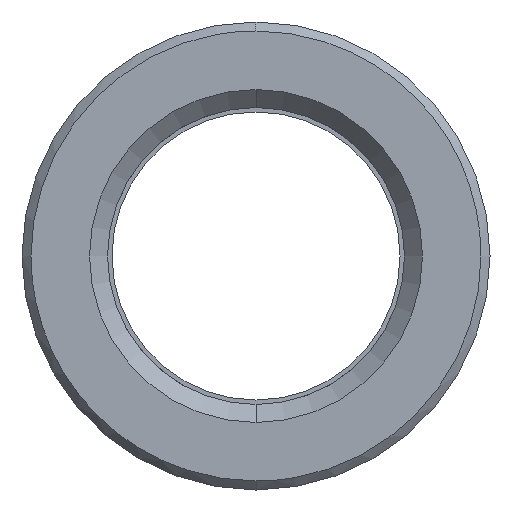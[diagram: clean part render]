
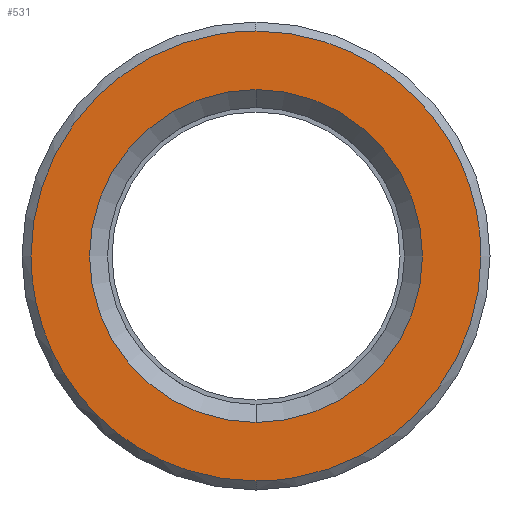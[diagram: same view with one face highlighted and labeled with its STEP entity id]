
A CAD part, left-side view. The second image highlights one B-rep face of the part: STEP entity #531.
In plain terms, the highlighted planar face has unit normal (-1, 0, 0).
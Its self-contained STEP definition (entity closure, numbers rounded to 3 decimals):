
#311=CARTESIAN_POINT('Axis2P3D Location',(0.,0.,0.)) ;
#315=CARTESIAN_POINT('Vertex',(0.,9.25,0.)) ;
#317=CARTESIAN_POINT('Vertex',(0.,0.,9.25)) ;
#320=CARTESIAN_POINT('Axis2P3D Location',(0.,0.,0.)) ;
#324=CARTESIAN_POINT('Vertex',(0.,0.,-9.25)) ;
#351=CARTESIAN_POINT('Axis2P3D Location',(0.,0.,0.)) ;
#355=CARTESIAN_POINT('Vertex',(0.,-9.25,0.)) ;
#358=CARTESIAN_POINT('Axis2P3D Location',(0.,0.,0.)) ;
#438=CARTESIAN_POINT('Axis2P3D Location',(0.,12.5,0.)) ;
#444=CARTESIAN_POINT('Control Point',(0.,0.,-12.5)) ;
#445=CARTESIAN_POINT('Control Point',(0.,0.923,-12.5)) ;
#446=CARTESIAN_POINT('Control Point',(0.,1.846,-12.415)) ;
#447=CARTESIAN_POINT('Control Point',(0.,2.758,-12.245)) ;
#448=CARTESIAN_POINT('Control Point',(0.,4.82,-11.658)) ;
#449=CARTESIAN_POINT('Control Point',(0.,6.718,-10.646)) ;
#450=CARTESIAN_POINT('Control Point',(0.,7.721,-9.943)) ;
#451=CARTESIAN_POINT('Control Point',(0.,9.535,-8.308)) ;
#452=CARTESIAN_POINT('Control Point',(0.,10.907,-6.287)) ;
#453=CARTESIAN_POINT('Control Point',(0.,11.466,-5.197)) ;
#454=CARTESIAN_POINT('Control Point',(0.,12.089,-3.503)) ;
#455=CARTESIAN_POINT('Control Point',(0.,12.399,-1.736)) ;
#456=CARTESIAN_POINT('Control Point',(0.,12.466,-1.159)) ;
#457=CARTESIAN_POINT('Control Point',(0.,12.5,-0.579)) ;
#458=CARTESIAN_POINT('Control Point',(0.,12.5,0.)) ;
#459=CARTESIAN_POINT('Vertex',(0.,0.,-12.5)) ;
#461=CARTESIAN_POINT('Vertex',(0.,12.5,0.)) ;
#465=CARTESIAN_POINT('Control Point',(0.,-12.5,0.)) ;
#466=CARTESIAN_POINT('Control Point',(0.,-12.5,-1.212)) ;
#467=CARTESIAN_POINT('Control Point',(0.,-12.353,-2.425)) ;
#468=CARTESIAN_POINT('Control Point',(0.,-12.059,-3.614)) ;
#469=CARTESIAN_POINT('Control Point',(0.,-11.189,-5.896)) ;
#470=CARTESIAN_POINT('Control Point',(0.,-9.798,-7.904)) ;
#471=CARTESIAN_POINT('Control Point',(0.,-8.984,-8.819)) ;
#472=CARTESIAN_POINT('Control Point',(0.,-7.15,-10.432)) ;
#473=CARTESIAN_POINT('Control Point',(0.,-4.984,-11.56)) ;
#474=CARTESIAN_POINT('Control Point',(0.,-3.837,-11.99)) ;
#475=CARTESIAN_POINT('Control Point',(0.,-2.366,-12.344)) ;
#476=CARTESIAN_POINT('Control Point',(0.,-0.869,-12.475)) ;
#477=CARTESIAN_POINT('Control Point',(0.,-0.579,-12.492)) ;
#478=CARTESIAN_POINT('Control Point',(0.,-0.29,-12.5)) ;
#479=CARTESIAN_POINT('Control Point',(0.,0.,-12.5)) ;
#480=CARTESIAN_POINT('Vertex',(0.,-12.5,0.)) ;
#484=CARTESIAN_POINT('Control Point',(0.,0.,12.5)) ;
#485=CARTESIAN_POINT('Control Point',(0.,-0.923,12.5)) ;
#486=CARTESIAN_POINT('Control Point',(0.,-1.846,12.415)) ;
#487=CARTESIAN_POINT('Control Point',(0.,-2.758,12.245)) ;
#488=CARTESIAN_POINT('Control Point',(0.,-4.82,11.658)) ;
#489=CARTESIAN_POINT('Control Point',(0.,-6.718,10.646)) ;
#490=CARTESIAN_POINT('Control Point',(0.,-7.721,9.943)) ;
#491=CARTESIAN_POINT('Control Point',(0.,-9.535,8.308)) ;
#492=CARTESIAN_POINT('Control Point',(0.,-10.907,6.287)) ;
#493=CARTESIAN_POINT('Control Point',(0.,-11.466,5.197)) ;
#494=CARTESIAN_POINT('Control Point',(0.,-12.089,3.503)) ;
#495=CARTESIAN_POINT('Control Point',(0.,-12.399,1.736)) ;
#496=CARTESIAN_POINT('Control Point',(0.,-12.466,1.159)) ;
#497=CARTESIAN_POINT('Control Point',(0.,-12.5,0.579)) ;
#498=CARTESIAN_POINT('Control Point',(0.,-12.5,0.)) ;
#499=CARTESIAN_POINT('Vertex',(0.,0.,12.5)) ;
#503=CARTESIAN_POINT('Control Point',(0.,12.5,0.)) ;
#504=CARTESIAN_POINT('Control Point',(0.,12.5,1.212)) ;
#505=CARTESIAN_POINT('Control Point',(0.,12.353,2.425)) ;
#506=CARTESIAN_POINT('Control Point',(0.,12.059,3.614)) ;
#507=CARTESIAN_POINT('Control Point',(0.,11.189,5.896)) ;
#508=CARTESIAN_POINT('Control Point',(0.,9.798,7.904)) ;
#509=CARTESIAN_POINT('Control Point',(0.,8.984,8.819)) ;
#510=CARTESIAN_POINT('Control Point',(0.,7.15,10.432)) ;
#511=CARTESIAN_POINT('Control Point',(0.,4.984,11.56)) ;
#512=CARTESIAN_POINT('Control Point',(0.,3.837,11.99)) ;
#513=CARTESIAN_POINT('Control Point',(0.,2.366,12.344)) ;
#514=CARTESIAN_POINT('Control Point',(0.,0.869,12.475)) ;
#515=CARTESIAN_POINT('Control Point',(0.,0.579,12.492)) ;
#516=CARTESIAN_POINT('Control Point',(0.,0.29,12.5)) ;
#517=CARTESIAN_POINT('Control Point',(0.,0.,12.5)) ;
#312=DIRECTION('Axis2P3D Direction',(-1.,0.,0.)) ;
#321=DIRECTION('Axis2P3D Direction',(-1.,0.,0.)) ;
#352=DIRECTION('Axis2P3D Direction',(-1.,0.,0.)) ;
#359=DIRECTION('Axis2P3D Direction',(-1.,0.,0.)) ;
#439=DIRECTION('Axis2P3D Direction',(-1.,0.,0.)) ;
#440=DIRECTION('Axis2P3D XDirection',(0.,0.,1.)) ;
#313=AXIS2_PLACEMENT_3D('Circle Axis2P3D',#311,#312,$) ;
#322=AXIS2_PLACEMENT_3D('Circle Axis2P3D',#320,#321,$) ;
#353=AXIS2_PLACEMENT_3D('Circle Axis2P3D',#351,#352,$) ;
#360=AXIS2_PLACEMENT_3D('Circle Axis2P3D',#358,#359,$) ;
#441=AXIS2_PLACEMENT_3D('Plane Axis2P3D',#438,#439,#440) ;
#520=ORIENTED_EDGE('',*,*,#463,.F.) ;
#521=ORIENTED_EDGE('',*,*,#482,.F.) ;
#522=ORIENTED_EDGE('',*,*,#501,.F.) ;
#523=ORIENTED_EDGE('',*,*,#518,.F.) ;
#526=ORIENTED_EDGE('',*,*,#319,.T.) ;
#527=ORIENTED_EDGE('',*,*,#362,.T.) ;
#528=ORIENTED_EDGE('',*,*,#357,.T.) ;
#529=ORIENTED_EDGE('',*,*,#326,.T.) ;
#530=FACE_BOUND('',#525,.T.) ;
#531=ADVANCED_FACE('553-16X66',(#524,#530),#442,.T.) ;
#443=B_SPLINE_CURVE_WITH_KNOTS('',5,(#444,#445,#446,#447,#448,#449,#450,#451,#452,#453,#454,#455,#456,#457,#458),.UNSPECIFIED.,.F.,.U.,(6,3,3,3,6),(27.768,34.293,42.866,51.439,55.536),.UNSPECIFIED.) ;
#464=B_SPLINE_CURVE_WITH_KNOTS('',5,(#465,#466,#467,#468,#469,#470,#471,#472,#473,#474,#475,#476,#477,#478,#479),.UNSPECIFIED.,.F.,.U.,(6,3,3,3,6),(0.,8.573,17.146,25.719,27.768),.UNSPECIFIED.) ;
#483=B_SPLINE_CURVE_WITH_KNOTS('',5,(#484,#485,#486,#487,#488,#489,#490,#491,#492,#493,#494,#495,#496,#497,#498),.UNSPECIFIED.,.F.,.U.,(6,3,3,3,6),(27.768,34.293,42.866,51.439,55.536),.UNSPECIFIED.) ;
#502=B_SPLINE_CURVE_WITH_KNOTS('',5,(#503,#504,#505,#506,#507,#508,#509,#510,#511,#512,#513,#514,#515,#516,#517),.UNSPECIFIED.,.F.,.U.,(6,3,3,3,6),(0.,8.573,17.146,25.719,27.768),.UNSPECIFIED.) ;
#314=CIRCLE('generated circle',#313,9.25) ;
#323=CIRCLE('generated circle',#322,9.25) ;
#354=CIRCLE('generated circle',#353,9.25) ;
#361=CIRCLE('generated circle',#360,9.25) ;
#319=EDGE_CURVE('',#316,#318,#314,.F.) ;
#326=EDGE_CURVE('',#325,#316,#323,.F.) ;
#357=EDGE_CURVE('',#356,#325,#354,.F.) ;
#362=EDGE_CURVE('',#318,#356,#361,.F.) ;
#463=EDGE_CURVE('',#460,#462,#443,.T.) ;
#482=EDGE_CURVE('',#481,#460,#464,.T.) ;
#501=EDGE_CURVE('',#500,#481,#483,.T.) ;
#518=EDGE_CURVE('',#462,#500,#502,.T.) ;
#519=EDGE_LOOP('',(#520,#521,#522,#523)) ;
#525=EDGE_LOOP('',(#526,#527,#528,#529)) ;
#524=FACE_OUTER_BOUND('',#519,.T.) ;
#442=PLANE('Plane',#441) ;
#316=VERTEX_POINT('',#315) ;
#318=VERTEX_POINT('',#317) ;
#325=VERTEX_POINT('',#324) ;
#356=VERTEX_POINT('',#355) ;
#460=VERTEX_POINT('',#459) ;
#462=VERTEX_POINT('',#461) ;
#481=VERTEX_POINT('',#480) ;
#500=VERTEX_POINT('',#499) ;
